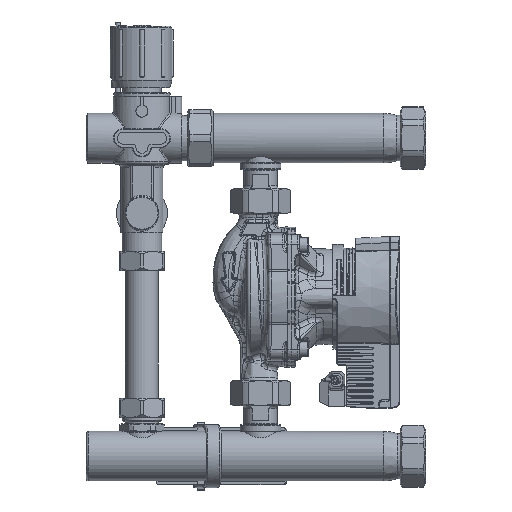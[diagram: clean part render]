
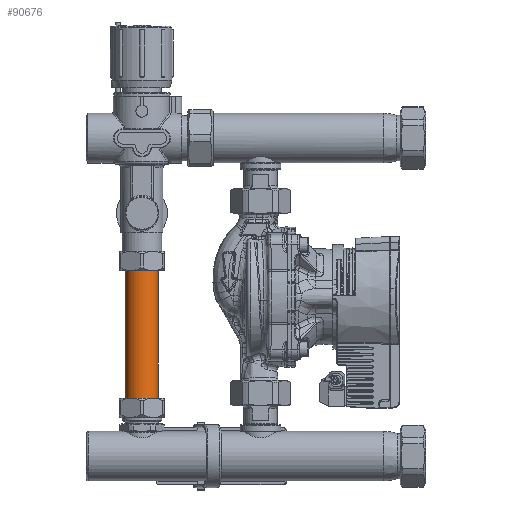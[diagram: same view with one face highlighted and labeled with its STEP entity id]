
A CAD part, top view. The second image highlights one B-rep face of the part: STEP entity #90676.
In plain terms, the highlighted cylindrical face has radius 11 mm (diameter 22 mm), a full revolution.
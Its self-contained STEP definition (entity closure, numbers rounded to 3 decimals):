
#11728=LINE('',#236656,#17647);
#17647=VECTOR('',#120779,11.);
#18762=CYLINDRICAL_SURFACE('',#98795,11.);
#23748=FACE_OUTER_BOUND('',#29077,.T.);
#29077=EDGE_LOOP('',(#78290,#78291,#78292,#78293));
#32389=CIRCLE('',#98793,11.);
#32390=CIRCLE('',#98796,11.);
#40349=VERTEX_POINT('',#236651);
#40350=VERTEX_POINT('',#236655);
#53022=EDGE_CURVE('',#40349,#40349,#32389,.T.);
#53023=EDGE_CURVE('',#40349,#40350,#11728,.T.);
#53024=EDGE_CURVE('',#40350,#40350,#32390,.T.);
#78290=ORIENTED_EDGE('',*,*,#53022,.F.);
#78291=ORIENTED_EDGE('',*,*,#53023,.T.);
#78292=ORIENTED_EDGE('',*,*,#53024,.T.);
#78293=ORIENTED_EDGE('',*,*,#53023,.F.);
#90676=ADVANCED_FACE('',(#23748),#18762,.T.);
#98793=AXIS2_PLACEMENT_3D('',#236652,#120773,#120774);
#98795=AXIS2_PLACEMENT_3D('',#236654,#120777,#120778);
#98796=AXIS2_PLACEMENT_3D('',#236657,#120780,#120781);
#120773=DIRECTION('center_axis',(0.,-1.,0.));
#120774=DIRECTION('ref_axis',(-0.866,0.,
0.5));
#120777=DIRECTION('center_axis',(0.,-1.,0.));
#120778=DIRECTION('ref_axis',(-0.866,0.,
0.5));
#120779=DIRECTION('',(0.,1.,0.));
#120780=DIRECTION('center_axis',(0.,-1.,0.));
#120781=DIRECTION('ref_axis',(-0.866,0.,
0.5));
#236651=CARTESIAN_POINT('',(46.526,38.7,-5.5));
#236652=CARTESIAN_POINT('Origin',(37.,38.7,0.));
#236654=CARTESIAN_POINT('Origin',(37.,81.15,0.));
#236655=CARTESIAN_POINT('',(46.526,123.6,-5.5));
#236656=CARTESIAN_POINT('',(46.526,81.15,-5.5));
#236657=CARTESIAN_POINT('Origin',(37.,123.6,0.));
